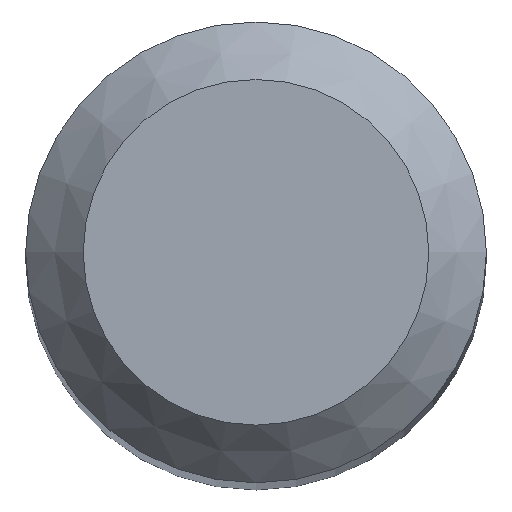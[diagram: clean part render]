
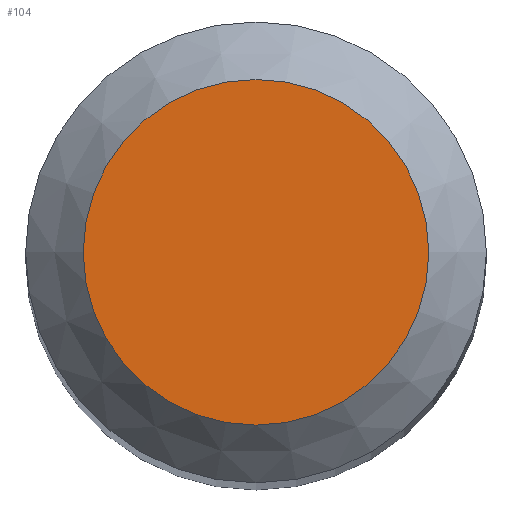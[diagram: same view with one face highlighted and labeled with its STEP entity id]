
A CAD part, top view. The second image highlights one B-rep face of the part: STEP entity #104.
In plain terms, the highlighted planar face has unit normal (0, 0, 1).
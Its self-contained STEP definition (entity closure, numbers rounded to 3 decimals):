
#88=CARTESIAN_POINT('',(1.5,0.0,50.0));
#89=DIRECTION('',(0.0,0.0,1.0));
#90=DIRECTION('',(1.0,0.0,0.0));
#91=AXIS2_PLACEMENT_3D('',#88,#89,#90);
#92=PLANE('',#91);
#93=CARTESIAN_POINT('',(-1.5,0.0,50.0));
#94=VERTEX_POINT('',#93);
#95=CARTESIAN_POINT('',(0.0,0.0,50.0));
#96=DIRECTION('',(0.0,0.0,-1.0));
#97=DIRECTION('',(-1.0,0.0,0.0));
#98=AXIS2_PLACEMENT_3D('',#95,#96,#97);
#99=CIRCLE('',#98,1.5);
#100=EDGE_CURVE('',#94,#94,#99,.T.);
#101=ORIENTED_EDGE('',*,*,#100,.F.);
#102=EDGE_LOOP('',(#101));
#103=FACE_OUTER_BOUND('',#102,.T.);
#104=ADVANCED_FACE('',(#103),#92,.T.);
